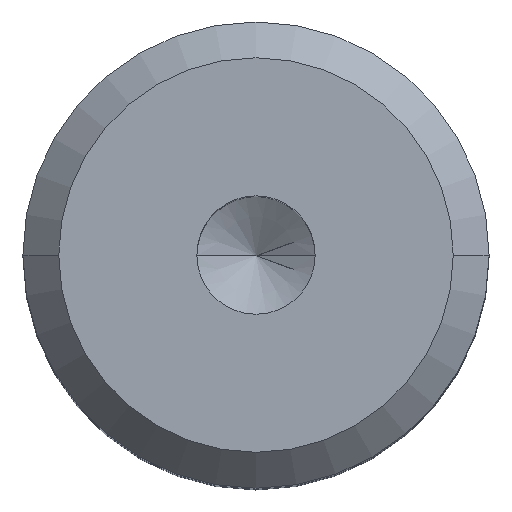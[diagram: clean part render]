
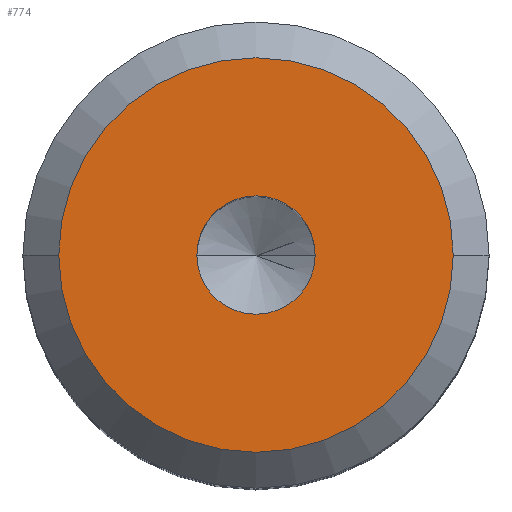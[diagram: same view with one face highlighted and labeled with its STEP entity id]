
A CAD part, top view. The second image highlights one B-rep face of the part: STEP entity #774.
In plain terms, the highlighted planar face has unit normal (0, 0, 1).
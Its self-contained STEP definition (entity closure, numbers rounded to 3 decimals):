
#23 = DIRECTION ( 'NONE',  ( 1., 0., 0. ) ) ;
#45 = PLANE ( 'NONE',  #144 ) ;
#49 = DIRECTION ( 'NONE',  ( 1., 0., 0. ) ) ;
#64 = EDGE_CURVE ( 'NONE', #672, #609, #68, .T. ) ;
#68 = CIRCLE ( 'NONE', #460, 5.5 ) ;
#74 = EDGE_LOOP ( 'NONE', ( #145, #231 ) ) ;
#84 = DIRECTION ( 'NONE',  ( 0., 0., -1. ) ) ;
#103 = DIRECTION ( 'NONE',  ( 0., 0., 1. ) ) ;
#116 = DIRECTION ( 'NONE',  ( 0., 0., -1. ) ) ;
#144 = AXIS2_PLACEMENT_3D ( 'NONE', #415, #643, #49 ) ;
#145 = ORIENTED_EDGE ( 'NONE', *, *, #840, .F. ) ;
#151 = ORIENTED_EDGE ( 'NONE', *, *, #501, .F. ) ;
#191 = AXIS2_PLACEMENT_3D ( 'NONE', #935, #103, #238 ) ;
#231 = ORIENTED_EDGE ( 'NONE', *, *, #64, .F. ) ;
#238 = DIRECTION ( 'NONE',  ( 1., 0., 0. ) ) ;
#240 = CARTESIAN_POINT ( 'NONE',  ( 0., 0., 15. ) ) ;
#244 = EDGE_CURVE ( 'NONE', #990, #516, #989, .T. ) ;
#269 = CIRCLE ( 'NONE', #665, 5.5 ) ;
#280 = CARTESIAN_POINT ( 'NONE',  ( 0., 0., 15. ) ) ;
#315 = EDGE_LOOP ( 'NONE', ( #749, #151 ) ) ;
#339 = CARTESIAN_POINT ( 'NONE',  ( 0., 0., 15. ) ) ;
#341 = FACE_BOUND ( 'NONE', #315, .T. ) ;
#348 = CARTESIAN_POINT ( 'NONE',  ( -5.5, 0., 15. ) ) ;
#415 = CARTESIAN_POINT ( 'NONE',  ( -7.15, -11.432, 15. ) ) ;
#460 = AXIS2_PLACEMENT_3D ( 'NONE', #240, #84, #776 ) ;
#501 = EDGE_CURVE ( 'NONE', #516, #990, #525, .T. ) ;
#502 = CARTESIAN_POINT ( 'NONE',  ( 1.65, 0., 15. ) ) ;
#510 = AXIS2_PLACEMENT_3D ( 'NONE', #280, #657, #23 ) ;
#516 = VERTEX_POINT ( 'NONE', #624 ) ;
#525 = CIRCLE ( 'NONE', #191, 1.65 ) ;
#609 = VERTEX_POINT ( 'NONE', #803 ) ;
#624 = CARTESIAN_POINT ( 'NONE',  ( -1.65, 0., 15. ) ) ;
#636 = DIRECTION ( 'NONE',  ( -1., 0., 0. ) ) ;
#643 = DIRECTION ( 'NONE',  ( 0., 0., 1. ) ) ;
#657 = DIRECTION ( 'NONE',  ( 0., 0., 1. ) ) ;
#665 = AXIS2_PLACEMENT_3D ( 'NONE', #339, #116, #636 ) ;
#672 = VERTEX_POINT ( 'NONE', #348 ) ;
#749 = ORIENTED_EDGE ( 'NONE', *, *, #244, .F. ) ;
#754 = FACE_OUTER_BOUND ( 'NONE', #74, .T. ) ;
#774 = ADVANCED_FACE ( 'NONE', ( #341, #754 ), #45, .T. ) ;
#776 = DIRECTION ( 'NONE',  ( -1., 0., 0. ) ) ;
#803 = CARTESIAN_POINT ( 'NONE',  ( 5.5, 0., 15. ) ) ;
#840 = EDGE_CURVE ( 'NONE', #609, #672, #269, .T. ) ;
#935 = CARTESIAN_POINT ( 'NONE',  ( 0., 0., 15. ) ) ;
#989 = CIRCLE ( 'NONE', #510, 1.65 ) ;
#990 = VERTEX_POINT ( 'NONE', #502 ) ;
